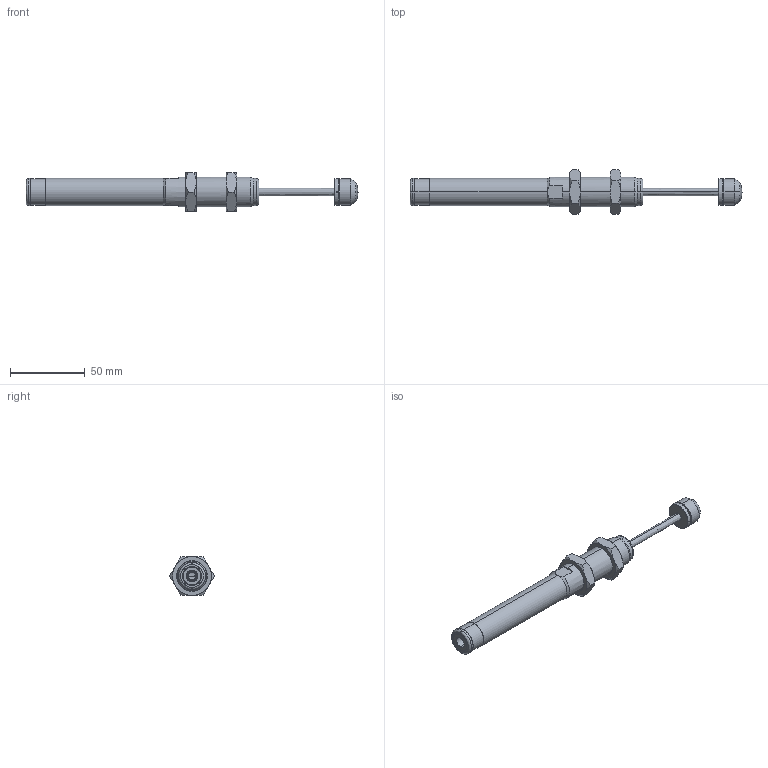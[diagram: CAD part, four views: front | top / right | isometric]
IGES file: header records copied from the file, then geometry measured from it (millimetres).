
Start section: SolidWorks IGES file using analytic representation for surfaces
Global section: file name: D:\IGS跡宒\AC2050-1KW.IGS,1; native system: 5HSolidWorks 2013; preprocessor: SolidWorks 2013; author: Administrator; date: 160920.093613; units: inch
Bounding box: 222.3 x 30.02 x 26 mm (x, y, z)
Surface area: 15423.2 mm2 (no closed solid volume)
Topology: 0 solids, 0 shells, 109 faces, 1692 edges, 1691 vertices
Faces by surface type: revolution 76, bspline 33
